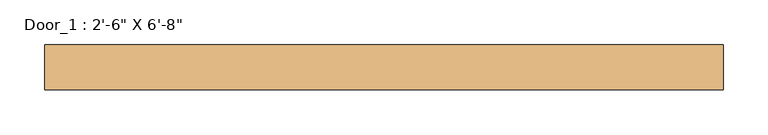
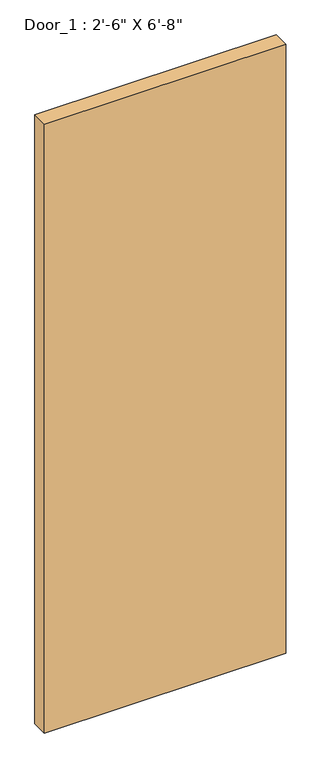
"""IFC4 building model written with IfcOpenShell, lengths in millimetres: door geometry."""

from ifc_helpers import new_model, si_unit, origin, origin_with_axes, place, context, project, spatial, polyline, outline, extrude, source, transform, mapped, element, save


def door_949120a3(model_context):
    return source(origin(), model_context, "Body", "SweptSolid", [
        extrude(outline(polyline([(381.0, -128.7893842), (381.0, -179.5893842), (-381.0, -179.5893842), (-381.0, -128.7893842), (381.0, -128.7893842)])), origin_with_axes(), (0.0, 0.0, 1.0), 2032.0),
    ])


if __name__ == "__main__":
    model = new_model("IFC4")
    model_context = context("Model", 3, world=origin())
    ifc_project = project(units=[si_unit("LENGTHUNIT", "METRE", prefix="MILLI")], contexts=[model_context])
    site = spatial("IfcSite", under=ifc_project)
    building = spatial("IfcBuilding", under=site)
    placement = place(None, origin())
    door_shape = door_949120a3(model_context)
    element("IfcDoor", 1, ObjectType="Door_1 : 2'-6\" X 6'-8\"", at=placement, inside=building, context=model_context, shape_type="MappedRepresentation", body=[
        mapped(door_shape, transform((0.0, 0.0, 0.0), x_axis=(1.0, 0.0, 0.0), y_axis=(0.0, 1.0, 0.0), z_axis=(0.0, 0.0, 1.0))),
    ])
    save(model, "model.ifc")
